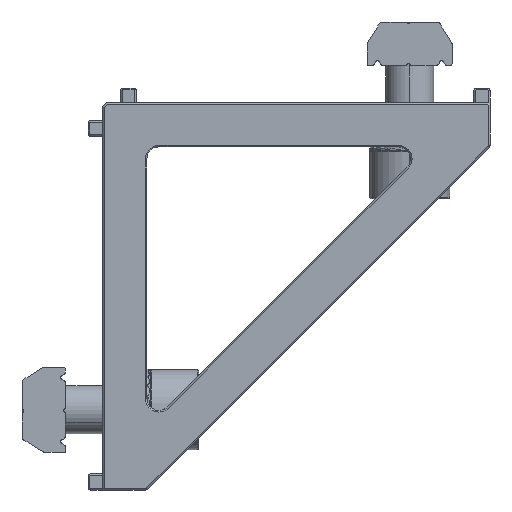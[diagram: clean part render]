
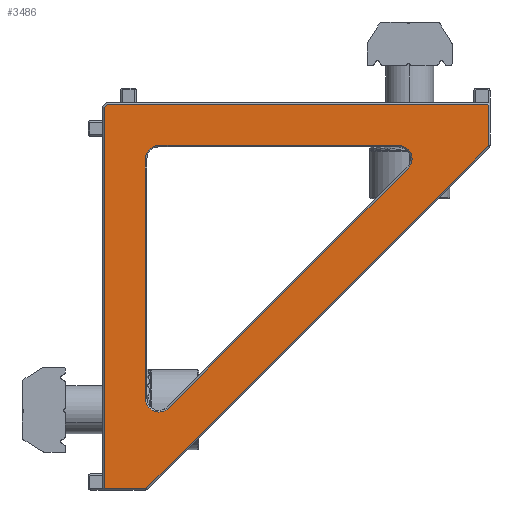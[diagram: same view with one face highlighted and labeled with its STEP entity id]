
A CAD part, front view. The second image highlights one B-rep face of the part: STEP entity #3486.
In plain terms, the highlighted planar face has unit normal (0, -1, 0).
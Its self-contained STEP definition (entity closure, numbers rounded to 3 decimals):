
#14 = EDGE_CURVE ( 'NONE', #3913, #940, #10665, .T. ) ;
#256 = CARTESIAN_POINT ( 'NONE',  ( 8.8, 0., -7.1 ) ) ;
#278 = DIRECTION ( 'NONE',  ( 0., 0., 1. ) ) ;
#362 = CIRCLE ( 'NONE', #13669, 0.3 ) ;
#420 = CARTESIAN_POINT ( 'NONE',  ( 8.8, 0., -40.301 ) ) ;
#438 = CARTESIAN_POINT ( 'NONE',  ( 49.712, 0., -7.305 ) ) ;
#603 = DIRECTION ( 'NONE',  ( 0., -1., 0. ) ) ;
#728 = CARTESIAN_POINT ( 'NONE',  ( 0., 0., -2. ) ) ;
#928 = EDGE_CURVE ( 'NONE', #940, #1408, #7998, .T. ) ;
#940 = VERTEX_POINT ( 'NONE', #10074 ) ;
#1250 = VERTEX_POINT ( 'NONE', #16551 ) ;
#1378 = VERTEX_POINT ( 'NONE', #9780 ) ;
#1408 = VERTEX_POINT ( 'NONE', #2663 ) ;
#1695 = DIRECTION ( 'NONE',  ( 0., 1., 0. ) ) ;
#1822 = DIRECTION ( 'NONE',  ( 0., 0., -1. ) ) ;
#1891 = CARTESIAN_POINT ( 'NONE',  ( 2.383, 0., -2. ) ) ;
#1963 = DIRECTION ( 'NONE',  ( 0.707, 0., 0.707 ) ) ;
#2367 = VECTOR ( 'NONE', #5272, 1000. ) ;
#2495 = DIRECTION ( 'NONE',  ( 0., 0., 1. ) ) ;
#2663 = CARTESIAN_POINT ( 'NONE',  ( 39.803, 0., -10.002 ) ) ;
#2701 = AXIS2_PLACEMENT_3D ( 'NONE', #9267, #3783, #16289 ) ;
#2992 = AXIS2_PLACEMENT_3D ( 'NONE', #17245, #1695, #10291 ) ;
#3080 = CARTESIAN_POINT ( 'NONE',  ( 10.002, 0., -39.803 ) ) ;
#3189 = CARTESIAN_POINT ( 'NONE',  ( 7.305, 0., -49.712 ) ) ;
#3445 = CARTESIAN_POINT ( 'NONE',  ( 49.659, 0., -1.941 ) ) ;
#3486 = ADVANCED_FACE ( 'NONE', ( #11686, #8718 ), #15862, .F. ) ;
#3533 = VECTOR ( 'NONE', #1822, 1000. ) ;
#3628 = DIRECTION ( 'NONE',  ( 0.707, 0., -0.707 ) ) ;
#3752 = LINE ( 'NONE', #728, #11581 ) ;
#3783 = DIRECTION ( 'NONE',  ( 0., 1., 0. ) ) ;
#3870 = ORIENTED_EDGE ( 'NONE', *, *, #17602, .T. ) ;
#3913 = VERTEX_POINT ( 'NONE', #256 ) ;
#3984 = LINE ( 'NONE', #17962, #2367 ) ;
#4089 = ORIENTED_EDGE ( 'NONE', *, *, #8588, .T. ) ;
#4304 = ORIENTED_EDGE ( 'NONE', *, *, #5528, .T. ) ;
#4305 = DIRECTION ( 'NONE',  ( 0., 0., 1. ) ) ;
#4468 = ORIENTED_EDGE ( 'NONE', *, *, #14860, .T. ) ;
#4679 = ORIENTED_EDGE ( 'NONE', *, *, #10559, .T. ) ;
#4848 = ORIENTED_EDGE ( 'NONE', *, *, #13914, .T. ) ;
#4985 = LINE ( 'NONE', #8988, #7209 ) ;
#5216 = ORIENTED_EDGE ( 'NONE', *, *, #16836, .T. ) ;
#5265 = VERTEX_POINT ( 'NONE', #1891 ) ;
#5272 = DIRECTION ( 'NONE',  ( 1., 0., 0. ) ) ;
#5346 = AXIS2_PLACEMENT_3D ( 'NONE', #14438, #11663, #278 ) ;
#5514 = CARTESIAN_POINT ( 'NONE',  ( 7.1, 0., -8.8 ) ) ;
#5528 = EDGE_CURVE ( 'NONE', #7283, #17328, #7306, .T. ) ;
#5694 = LINE ( 'NONE', #5514, #11975 ) ;
#5795 = ORIENTED_EDGE ( 'NONE', *, *, #14617, .T. ) ;
#5808 = CARTESIAN_POINT ( 'NONE',  ( 10.002, 0., -39.803 ) ) ;
#6088 = LINE ( 'NONE', #5808, #17499 ) ;
#6351 = DIRECTION ( 'NONE',  ( -1., 0., 0. ) ) ;
#6420 = CARTESIAN_POINT ( 'NONE',  ( 8.8, 0., -38.601 ) ) ;
#6439 = CARTESIAN_POINT ( 'NONE',  ( 1.941, 0., -2.441 ) ) ;
#6443 = CARTESIAN_POINT ( 'NONE',  ( 49.8, 0., -2.083 ) ) ;
#6480 = CIRCLE ( 'NONE', #11500, 1.7 ) ;
#6950 = CARTESIAN_POINT ( 'NONE',  ( 49.8, 0., 0. ) ) ;
#7024 = DIRECTION ( 'NONE',  ( 0., 0., 1. ) ) ;
#7031 = DIRECTION ( 'NONE',  ( 0., 0., 1. ) ) ;
#7110 = DIRECTION ( 'NONE',  ( 0., 1., 0. ) ) ;
#7209 = VECTOR ( 'NONE', #1963, 1000. ) ;
#7283 = VERTEX_POINT ( 'NONE', #17959 ) ;
#7306 = LINE ( 'NONE', #6950, #8332 ) ;
#7727 = EDGE_CURVE ( 'NONE', #5265, #10437, #13499, .T. ) ;
#7755 = AXIS2_PLACEMENT_3D ( 'NONE', #6420, #14862, #10510 ) ;
#7809 = LINE ( 'NONE', #3445, #18075 ) ;
#7997 = VERTEX_POINT ( 'NONE', #438 ) ;
#7998 = CIRCLE ( 'NONE', #5346, 1.7 ) ;
#8332 = VECTOR ( 'NONE', #7031, 1000. ) ;
#8588 = EDGE_CURVE ( 'NONE', #8919, #3913, #17183, .T. ) ;
#8626 = VECTOR ( 'NONE', #13949, 1000. ) ;
#8714 = VERTEX_POINT ( 'NONE', #9163 ) ;
#8718 = FACE_BOUND ( 'NONE', #14796, .T. ) ;
#8736 = ORIENTED_EDGE ( 'NONE', *, *, #11142, .T. ) ;
#8748 = CARTESIAN_POINT ( 'NONE',  ( 2.141, 0., -49.859 ) ) ;
#8774 = CARTESIAN_POINT ( 'NONE',  ( 7.1, 0., -8.8 ) ) ;
#8919 = VERTEX_POINT ( 'NONE', #8774 ) ;
#8934 = LINE ( 'NONE', #8748, #15239 ) ;
#8939 = EDGE_CURVE ( 'NONE', #1408, #16001, #6088, .T. ) ;
#8988 = CARTESIAN_POINT ( 'NONE',  ( 49.712, 0., -7.305 ) ) ;
#9163 = CARTESIAN_POINT ( 'NONE',  ( 2., 0., -49.717 ) ) ;
#9267 = CARTESIAN_POINT ( 'NONE',  ( 8.8, 0., -8.8 ) ) ;
#9360 = EDGE_CURVE ( 'NONE', #7997, #7283, #362, .T. ) ;
#9487 = VERTEX_POINT ( 'NONE', #3189 ) ;
#9497 = ORIENTED_EDGE ( 'NONE', *, *, #9689, .T. ) ;
#9600 = ORIENTED_EDGE ( 'NONE', *, *, #9360, .T. ) ;
#9689 = EDGE_CURVE ( 'NONE', #16001, #10031, #11598, .T. ) ;
#9775 = CARTESIAN_POINT ( 'NONE',  ( 49.5, 0., -7.093 ) ) ;
#9780 = CARTESIAN_POINT ( 'NONE',  ( 7.093, 0., -49.8 ) ) ;
#10031 = VERTEX_POINT ( 'NONE', #420 ) ;
#10074 = CARTESIAN_POINT ( 'NONE',  ( 38.601, 0., -7.1 ) ) ;
#10261 = DIRECTION ( 'NONE',  ( -0.707, 0., -0.707 ) ) ;
#10291 = DIRECTION ( 'NONE',  ( 0., 0., 1. ) ) ;
#10313 = EDGE_CURVE ( 'NONE', #17328, #15352, #7809, .T. ) ;
#10314 = CARTESIAN_POINT ( 'NONE',  ( 7.093, 0., -49.5 ) ) ;
#10325 = CARTESIAN_POINT ( 'NONE',  ( 2., 0., 0. ) ) ;
#10437 = VERTEX_POINT ( 'NONE', #11510 ) ;
#10510 = DIRECTION ( 'NONE',  ( 0., 0., 1. ) ) ;
#10559 = EDGE_CURVE ( 'NONE', #1378, #9487, #16648, .T. ) ;
#10631 = VERTEX_POINT ( 'NONE', #11988 ) ;
#10635 = EDGE_CURVE ( 'NONE', #10031, #1250, #6480, .T. ) ;
#10665 = LINE ( 'NONE', #14946, #12900 ) ;
#11142 = EDGE_CURVE ( 'NONE', #15352, #5265, #3752, .T. ) ;
#11275 = CARTESIAN_POINT ( 'NONE',  ( 8.8, 0., -38.601 ) ) ;
#11488 = ORIENTED_EDGE ( 'NONE', *, *, #8939, .T. ) ;
#11500 = AXIS2_PLACEMENT_3D ( 'NONE', #11275, #7110, #7024 ) ;
#11501 = ORIENTED_EDGE ( 'NONE', *, *, #14, .T. ) ;
#11510 = CARTESIAN_POINT ( 'NONE',  ( 2., 0., -2.383 ) ) ;
#11581 = VECTOR ( 'NONE', #6351, 1000. ) ;
#11598 = CIRCLE ( 'NONE', #7755, 1.7 ) ;
#11663 = DIRECTION ( 'NONE',  ( 0., 1., 0. ) ) ;
#11686 = FACE_OUTER_BOUND ( 'NONE', #14943, .T. ) ;
#11975 = VECTOR ( 'NONE', #4305, 1000. ) ;
#11988 = CARTESIAN_POINT ( 'NONE',  ( 2.083, 0., -49.8 ) ) ;
#12345 = DIRECTION ( 'NONE',  ( 1., 0., 0. ) ) ;
#12391 = ORIENTED_EDGE ( 'NONE', *, *, #7727, .T. ) ;
#12900 = VECTOR ( 'NONE', #12345, 1000. ) ;
#13462 = DIRECTION ( 'NONE',  ( -0.707, 0., 0.707 ) ) ;
#13499 = LINE ( 'NONE', #6439, #8626 ) ;
#13669 = AXIS2_PLACEMENT_3D ( 'NONE', #9775, #16905, #2495 ) ;
#13872 = ORIENTED_EDGE ( 'NONE', *, *, #928, .T. ) ;
#13914 = EDGE_CURVE ( 'NONE', #9487, #7997, #4985, .T. ) ;
#13949 = DIRECTION ( 'NONE',  ( -0.707, 0., -0.707 ) ) ;
#14223 = ORIENTED_EDGE ( 'NONE', *, *, #10635, .T. ) ;
#14408 = LINE ( 'NONE', #10325, #3533 ) ;
#14438 = CARTESIAN_POINT ( 'NONE',  ( 38.601, 0., -8.8 ) ) ;
#14617 = EDGE_CURVE ( 'NONE', #1250, #8919, #5694, .T. ) ;
#14796 = EDGE_LOOP ( 'NONE', ( #5795, #4089, #11501, #13872, #11488, #9497, #14223 ) ) ;
#14819 = AXIS2_PLACEMENT_3D ( 'NONE', #10314, #603, #16153 ) ;
#14860 = EDGE_CURVE ( 'NONE', #8714, #10631, #8934, .T. ) ;
#14862 = DIRECTION ( 'NONE',  ( 0., 1., 0. ) ) ;
#14943 = EDGE_LOOP ( 'NONE', ( #8736, #12391, #3870, #4468, #5216, #4679, #4848, #9600, #4304, #17265 ) ) ;
#14946 = CARTESIAN_POINT ( 'NONE',  ( 38.601, 0., -7.1 ) ) ;
#15239 = VECTOR ( 'NONE', #3628, 1000. ) ;
#15352 = VERTEX_POINT ( 'NONE', #17772 ) ;
#15862 = PLANE ( 'NONE',  #2992 ) ;
#16001 = VERTEX_POINT ( 'NONE', #3080 ) ;
#16153 = DIRECTION ( 'NONE',  ( 0., 0., 1. ) ) ;
#16289 = DIRECTION ( 'NONE',  ( 0., 0., 1. ) ) ;
#16551 = CARTESIAN_POINT ( 'NONE',  ( 7.1, 0., -38.601 ) ) ;
#16648 = CIRCLE ( 'NONE', #14819, 0.3 ) ;
#16836 = EDGE_CURVE ( 'NONE', #10631, #1378, #3984, .T. ) ;
#16905 = DIRECTION ( 'NONE',  ( 0., -1., 0. ) ) ;
#17183 = CIRCLE ( 'NONE', #2701, 1.7 ) ;
#17245 = CARTESIAN_POINT ( 'NONE',  ( 0., 0., 0. ) ) ;
#17265 = ORIENTED_EDGE ( 'NONE', *, *, #10313, .T. ) ;
#17328 = VERTEX_POINT ( 'NONE', #6443 ) ;
#17499 = VECTOR ( 'NONE', #10261, 1000. ) ;
#17602 = EDGE_CURVE ( 'NONE', #10437, #8714, #14408, .T. ) ;
#17772 = CARTESIAN_POINT ( 'NONE',  ( 49.717, 0., -2. ) ) ;
#17959 = CARTESIAN_POINT ( 'NONE',  ( 49.8, 0., -7.093 ) ) ;
#17962 = CARTESIAN_POINT ( 'NONE',  ( 0., 0., -49.8 ) ) ;
#18075 = VECTOR ( 'NONE', #13462, 1000. ) ;
